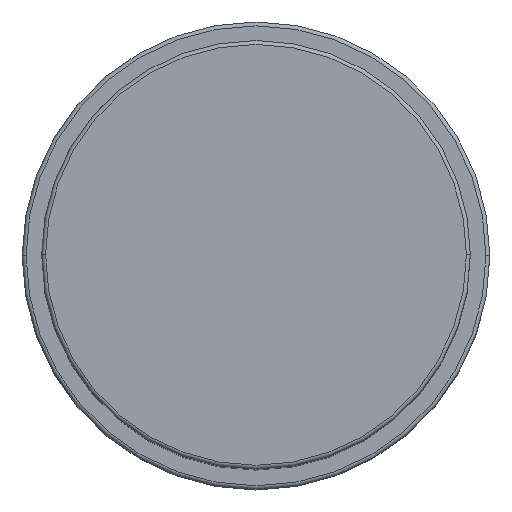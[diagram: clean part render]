
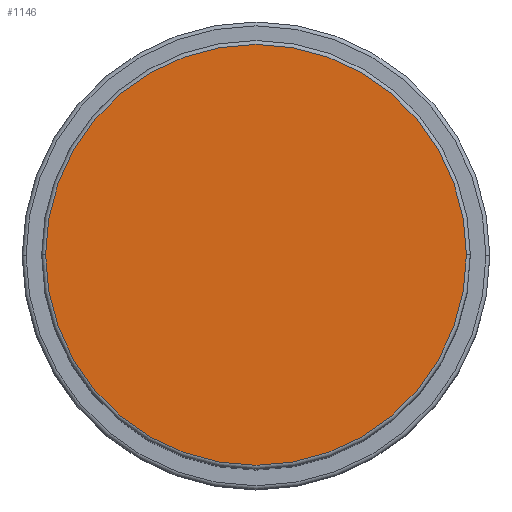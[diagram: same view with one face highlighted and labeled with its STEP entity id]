
A CAD part, top view. The second image highlights one B-rep face of the part: STEP entity #1146.
In plain terms, the highlighted planar face has unit normal (0, 0, 1).
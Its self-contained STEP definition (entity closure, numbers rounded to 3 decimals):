
#13 = DIRECTION ( 'NONE',  ( 0., 0., 1. ) ) ;
#232 = VERTEX_POINT ( 'NONE', #1284 ) ;
#236 = EDGE_LOOP ( 'NONE', ( #637, #500 ) ) ;
#280 = CARTESIAN_POINT ( 'NONE',  ( 0., 0., 96. ) ) ;
#292 = DIRECTION ( 'NONE',  ( 0., 0., 1. ) ) ;
#373 = AXIS2_PLACEMENT_3D ( 'NONE', #921, #13, #917 ) ;
#412 = FACE_OUTER_BOUND ( 'NONE', #236, .T. ) ;
#500 = ORIENTED_EDGE ( 'NONE', *, *, #1413, .T. ) ;
#519 = DIRECTION ( 'NONE',  ( 0., 0., 1. ) ) ;
#597 = AXIS2_PLACEMENT_3D ( 'NONE', #280, #292, #1586 ) ;
#637 = ORIENTED_EDGE ( 'NONE', *, *, #1441, .T. ) ;
#714 = CIRCLE ( 'NONE', #1237, 27. ) ;
#784 = CARTESIAN_POINT ( 'NONE',  ( 0., 0., 96. ) ) ;
#803 = PLANE ( 'NONE',  #597 ) ;
#917 = DIRECTION ( 'NONE',  ( 1., 0., 0. ) ) ;
#921 = CARTESIAN_POINT ( 'NONE',  ( 0., 0., 96. ) ) ;
#1146 = ADVANCED_FACE ( 'NONE', ( #412 ), #803, .T. ) ;
#1171 = CARTESIAN_POINT ( 'NONE',  ( 27., 0., 96. ) ) ;
#1237 = AXIS2_PLACEMENT_3D ( 'NONE', #784, #519, #1565 ) ;
#1284 = CARTESIAN_POINT ( 'NONE',  ( -27., 0., 96. ) ) ;
#1413 = EDGE_CURVE ( 'NONE', #232, #1490, #1632, .T. ) ;
#1441 = EDGE_CURVE ( 'NONE', #1490, #232, #714, .T. ) ;
#1490 = VERTEX_POINT ( 'NONE', #1171 ) ;
#1565 = DIRECTION ( 'NONE',  ( 1., 0., 0. ) ) ;
#1586 = DIRECTION ( 'NONE',  ( 1., 0., 0. ) ) ;
#1632 = CIRCLE ( 'NONE', #373, 27. ) ;
